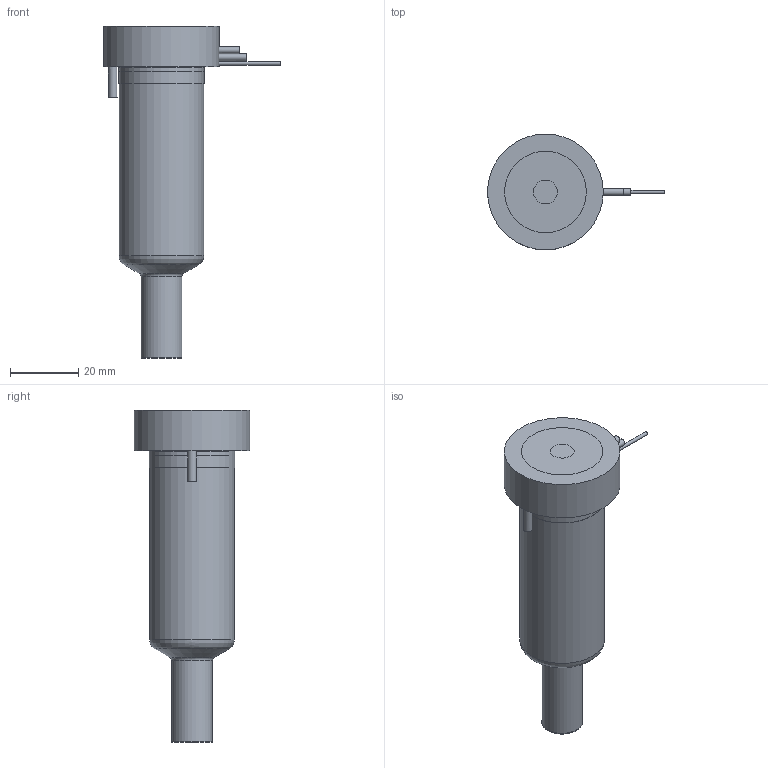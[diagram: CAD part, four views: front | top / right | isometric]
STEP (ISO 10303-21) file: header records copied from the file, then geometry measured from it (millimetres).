
FILE_DESCRIPTION(/* description */ (''),/* implementation_level */ '2;1');
FILE_NAME(/* name */ 'MXYCN16065N3U_250C_a',/* time_stamp */ '2016-02-29T09:26:24+13:00',/* author */ (''),/* organization */ (''),/* preprocessor_version */ 'ST-DEVELOPER v9',/* originating_system */ 'UGS - NX 4.0',/* authorisation */ '');
FILE_SCHEMA (('CONFIG_CONTROL_DESIGN'));
Length unit declared in the file: millimetre
Products named in the file (1): mattB1369xg9
Bounding box: 51.95 x 34 x 97.5 mm (x, y, z)
Volume: 71504.2 mm3; surface area: 16870.9 mm2
Topology: 2 solids, 2 shells, 71 faces, 156 edges, 102 vertices
Faces by surface type: plane 31, cylinder 26, torus 7, cone 5, bspline 1, sphere 1
Full cylindrical faces by diameter (mm): 1 x2, 1.5 x1, 2 x2, 2.5 x1, 5 x1, 7 x1, 11.61 x1, 11.995 x2, 14.8 x1, 20.8 x1, 24.9 x1, 25 x2, 34 x1
Entity records: 2121 total; most frequent: CARTESIAN_POINT 614, DIRECTION 314, ORIENTED_EDGE 234, AXIS2_PLACEMENT_3D 141, EDGE_CURVE 117, EDGE_LOOP 114, VERTEX_POINT 91, ADVANCED_FACE 71
